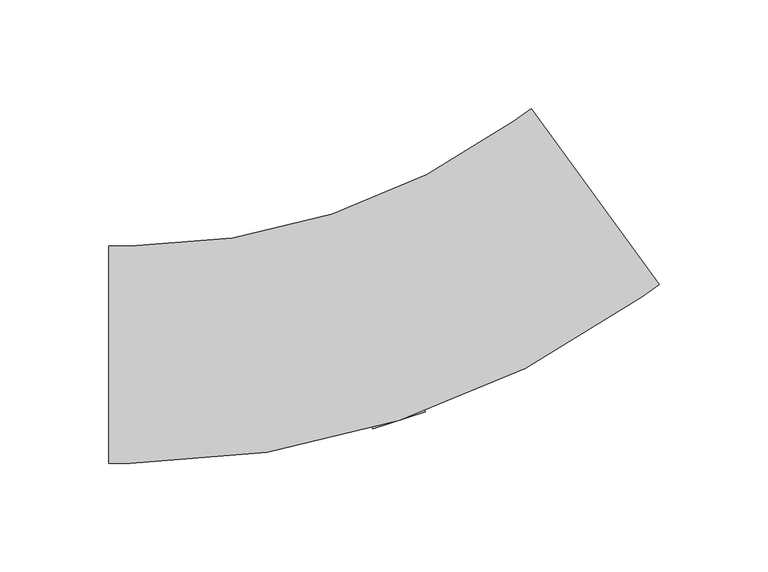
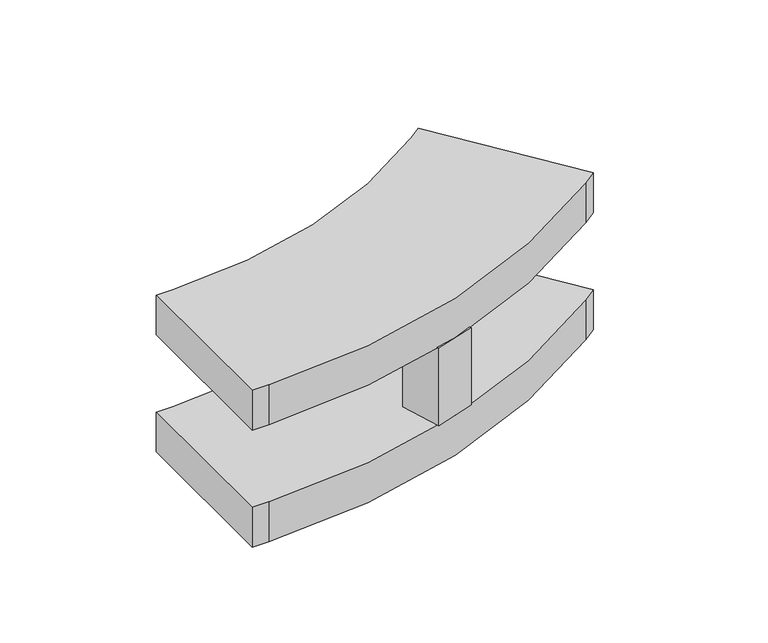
"""IFC4 building model written with IfcOpenShell, lengths in millimetres: cable carrier fitting geometry, ADSK_Поворот вертикальный внутренний_Лестничный лоток : Радиус 300 мм."""

from ifc_helpers import new_model, si_unit, point, frame, frame_2d, origin, place, context, project, spatial, polyline, circle_curve, trimmed, segment, composite_curve, outline, extrude, source, transform, mapped, element, save


def cable_carrier_fitting_b810c309(model_context):
    return source(origin(), model_context, "Body", "SweptSolid", [
        extrude(outline(polyline([(14.1142902, -2.3412552), (21.9633218, -26.4980907), (-2.1935137, -34.3471223), (-10.0425453, -10.1902868), (14.1142902, -2.3412552)])), frame((0.0, 0.0, -24.6), z_axis=(0.0, 0.0, 1.0), x_axis=(1.0, 0.0, 0.0)), (0.0, 0.0, 1.0), 49.2),
        extrude(outline(composite_curve([segment(polyline([(-123.7218937, -50.0), (-123.7218937, 50.0), (-113.7218937, 50.0)]), True, "CONTINUOUS"), segment(trimmed(circle_curve(frame_2d((-113.7218937, 350.0)), 300.0), [point((-113.7218937, 50.0))], [point((62.613682, 107.2949017))], True, "CARTESIAN"), True, "CONTINUOUS"), segment(polyline([(62.613682, 107.2949017), (70.7038519, 113.1727542), (129.4823772, 32.2710548), (121.3922072, 26.3932023)]), True, "CONTINUOUS"), segment(trimmed(circle_curve(frame_2d((-113.7218937, 350.0)), 400.0), [point((121.3922072, 26.3932023))], [point((-113.7218937, -50.0))], False, "CARTESIAN"), True, "CONTINUOUS"), segment(polyline([(-113.7218937, -50.0), (-123.7218937, -50.0)]), True, "CONTINUOUS")], self_intersect=False)), frame((0.0, 0.0, 24.6), z_axis=(0.0, 0.0, 1.0), x_axis=(1.0, 0.0, 0.0)), (0.0, 0.0, 1.0), 25.4),
        extrude(outline(composite_curve([segment(polyline([(-123.7218937, -50.0), (-123.7218937, 50.0), (-113.7218937, 50.0)]), True, "CONTINUOUS"), segment(trimmed(circle_curve(frame_2d((-113.7218937, 350.0)), 300.0), [point((-113.7218937, 50.0))], [point((62.613682, 107.2949017))], True, "CARTESIAN"), True, "CONTINUOUS"), segment(polyline([(62.613682, 107.2949017), (70.7038519, 113.1727542), (129.4823772, 32.2710548), (121.3922072, 26.3932023)]), True, "CONTINUOUS"), segment(trimmed(circle_curve(frame_2d((-113.7218937, 350.0)), 400.0), [point((121.3922072, 26.3932023))], [point((-113.7218937, -50.0))], False, "CARTESIAN"), True, "CONTINUOUS"), segment(polyline([(-113.7218937, -50.0), (-123.7218937, -50.0)]), True, "CONTINUOUS")], self_intersect=False)), frame((0.0, 0.0, -50.0), z_axis=(0.0, 0.0, 1.0), x_axis=(1.0, 0.0, 0.0)), (0.0, 0.0, 1.0), 25.4),
    ])


if __name__ == "__main__":
    model = new_model("IFC4")
    model_context = context("Model", 3, world=origin())
    ifc_project = project(units=[si_unit("LENGTHUNIT", "METRE", prefix="MILLI")], contexts=[model_context])
    site = spatial("IfcSite", under=ifc_project)
    building = spatial("IfcBuilding", under=site)
    placement = place(None, origin())
    cable_carrier_fitting_shape = cable_carrier_fitting_b810c309(model_context)
    element("IfcCableCarrierFitting", 1, ObjectType="ADSK_Поворот вертикальный внутренний_Лестничный лоток : Радиус 300 мм", at=placement, inside=building, context=model_context, shape_type="MappedRepresentation", body=[
        mapped(cable_carrier_fitting_shape, transform((0.0, 0.0, 0.0), x_axis=(1.0, 0.0, 0.0), y_axis=(0.0, 1.0, 0.0), z_axis=(0.0, 0.0, 1.0))),
    ])
    save(model, "model.ifc")
